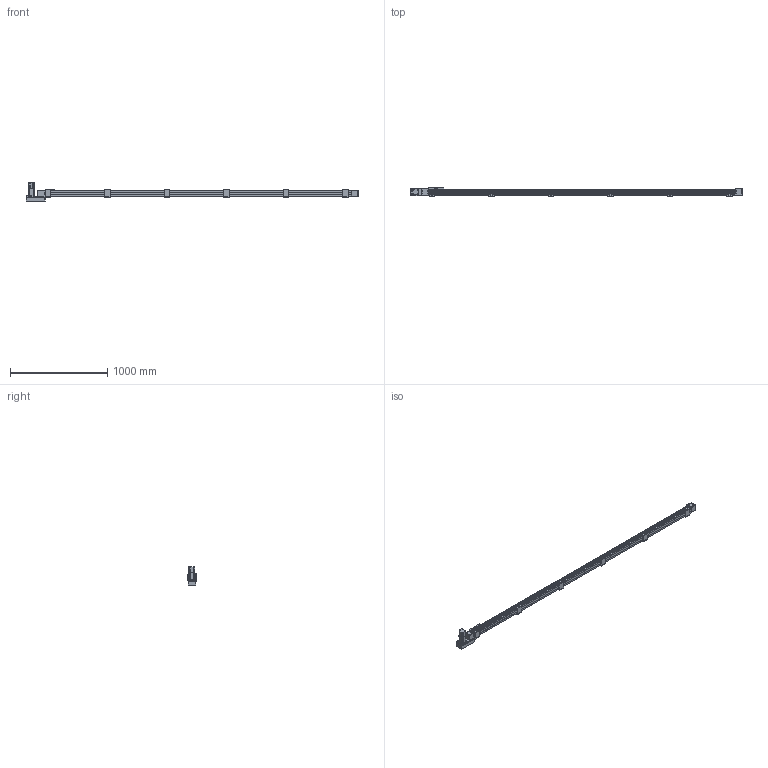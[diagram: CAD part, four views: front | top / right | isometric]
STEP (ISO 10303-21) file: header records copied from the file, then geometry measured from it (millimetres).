
FILE_DESCRIPTION(/* description */ ('STEP AP214'),/* implementation_level */ '2;1');
FILE_NAME(/* name */ 'SK60-P13-S3000-L-T40-C1-N(0)',/* time_stamp */ '2023-04-06T04:12:40+02:00',/* author */ ('License CC BY-ND 4.0'),/* organization */ ('CADENAS'),/* preprocessor_version */ 'ST-DEVELOPER v19.3',/* originating_system */ 'PARTsolutions',/* authorisation */ ' ');
FILE_SCHEMA (('AUTOMOTIVE_DESIGN {1 0 10303 214 3 1 1}'));
Length unit declared in the file: millimetre
Products named in the file (10): SK60-P13-S3000-L-T40-C1-N(0); PSC140-sensor; SK60-S450_seat; SK60-S450-BL-C1_slider; SK60_body3; SK60_body6; SK60-BL_body2; T40-p1; SK60-L_fb; SK60-S3000-L-C1_body
Assembly tree (20 placements, depth 2):
  SK60-P13-S3000-L-T40-C1-N(0)
    PSC140-sensor  x3
    SK60-S450_seat  x6
    SK60-S450-BL-C1_slider
    SK60_body3  x3
    SK60_body6  x2
    SK60-BL_body2  x2
    T40-p1
    SK60-L_fb
    SK60-S3000-L-C1_body
Bounding box: 3420.5 x 90 x 189.7 mm (x, y, z)
Volume: 12390566.9 mm3; surface area: 1442235.2 mm2
Topology: 20 solids, 20 shells, 986 faces, 2440 edges, 1605 vertices
Faces by surface type: plane 620, cylinder 326, cone 38, torus 2
Full cylindrical faces by diameter (mm): 2.8 x3, 3.3 x4, 4 x2, 4.5 x30, 4.6 x3, 4.917 x32, 5 x6, 5.478 x4, 5.5 x35, 6.5 x12, 7 x2, 8 x4, 8.5 x4, 9.988 x4, 10 x24, 14 x1, 47 x3, 50 x2
Entity records: 18687 total; most frequent: DIRECTION 3192, CARTESIAN_POINT 3154, ORIENTED_EDGE 2940, EDGE_CURVE 1470, AXIS2_PLACEMENT_3D 1072, LINE 1048, VECTOR 1048, VERTEX_POINT 1034
